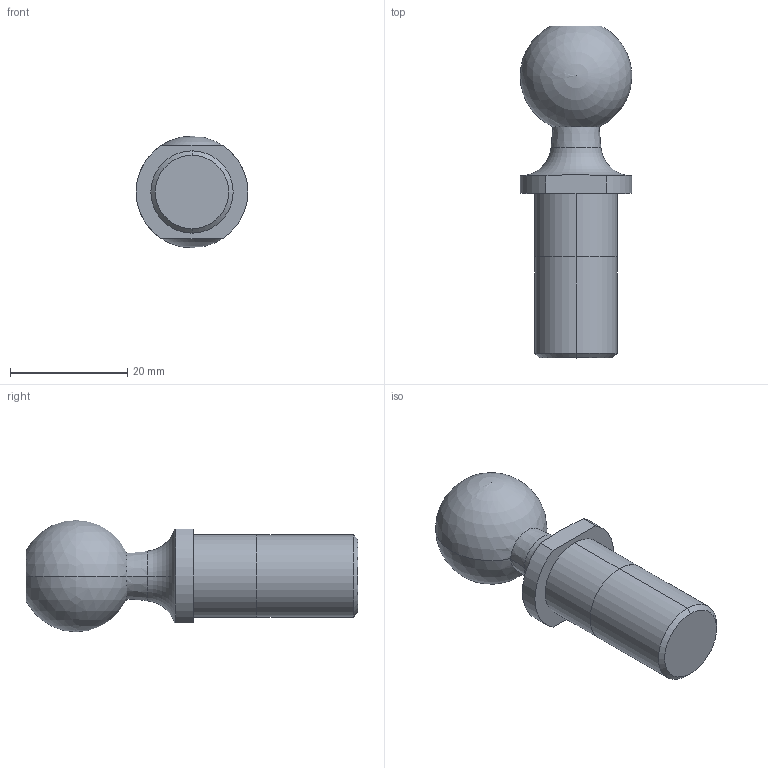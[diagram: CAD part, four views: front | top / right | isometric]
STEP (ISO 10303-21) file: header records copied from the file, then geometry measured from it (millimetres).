
FILE_DESCRIPTION (( 'STEP AP203' ), '1' );
FILE_NAME ('65550.W0014.step', '2014-02-03T10:41:24', ( 'User' ), ( '' ), 'SwSTEP 2.0', 'SolidWorks 2009', '' );
FILE_SCHEMA (( 'CONFIG_CONTROL_DESIGN' ));
Length unit declared in the file: millimetre
Products named in the file (1): 65550.W0014
Bounding box: 19 x 56.5 x 19 mm (x, y, z)
Volume: 9287.6 mm3; surface area: 3110.2 mm2
Topology: 1 solids, 1 shells, 20 faces, 47 edges, 29 vertices
Faces by surface type: cylinder 6, plane 6, cone 4, sphere 2, torus 2
Entity records: 639 total; most frequent: CARTESIAN_POINT 111, DIRECTION 108, ORIENTED_EDGE 84, AXIS2_PLACEMENT_3D 47, EDGE_CURVE 42, VERTEX_POINT 26, CIRCLE 26, EDGE_LOOP 22
